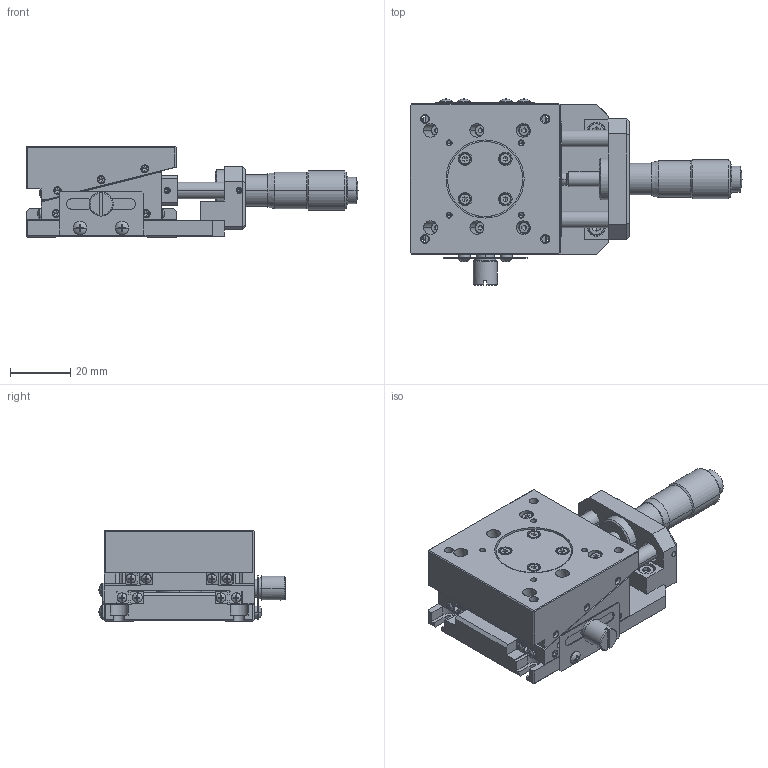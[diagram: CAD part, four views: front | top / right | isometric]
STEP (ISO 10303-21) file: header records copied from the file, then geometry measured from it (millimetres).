
FILE_DESCRIPTION (( 'STEP AP214' ), '1' );
FILE_NAME ('ZM05A-C1C-R.STEP', '2011-07-19T08:03:13', ( '' ), ( '' ), 'SwSTEP 2.0', 'SolidWorks 2011', '' );
FILE_SCHEMA (( 'AUTOMOTIVE_DESIGN' ));
Products named in the file (7): DP004004-1010-00-1; DP004004-1010-00-Part-1-1; DP004004-1020-00-1; DP004004-1020-00-Part-1-1; DP004004-1030-00-1; DP004004-1030-00-Part-1-1; ZM05A-C1C-R
Assembly tree (6 placements, depth 3):
  ZM05A-C1C-R
    DP004004-1010-00-1
      DP004004-1010-00-Part-1-1
    DP004004-1020-00-1
      DP004004-1020-00-Part-1-1
    DP004004-1030-00-1
      DP004004-1030-00-Part-1-1
Bounding box: 110.5 x 61.93 x 30 mm (x, y, z)
Volume: 75712.4 mm3; surface area: 45455 mm2
Topology: 3 solids, 79 shells, 2834 faces, 6591 edges, 3933 vertices
Faces by surface type: plane 1507, cylinder 736, cone 533, sphere 48, torus 10
Entity records: 80112 total; most frequent: CARTESIAN_POINT 14624, DIRECTION 14442, ORIENTED_EDGE 12862, EDGE_CURVE 6431, AXIS2_PLACEMENT_3D 5369, VERTEX_POINT 3933, LINE 3704, VECTOR 3704
